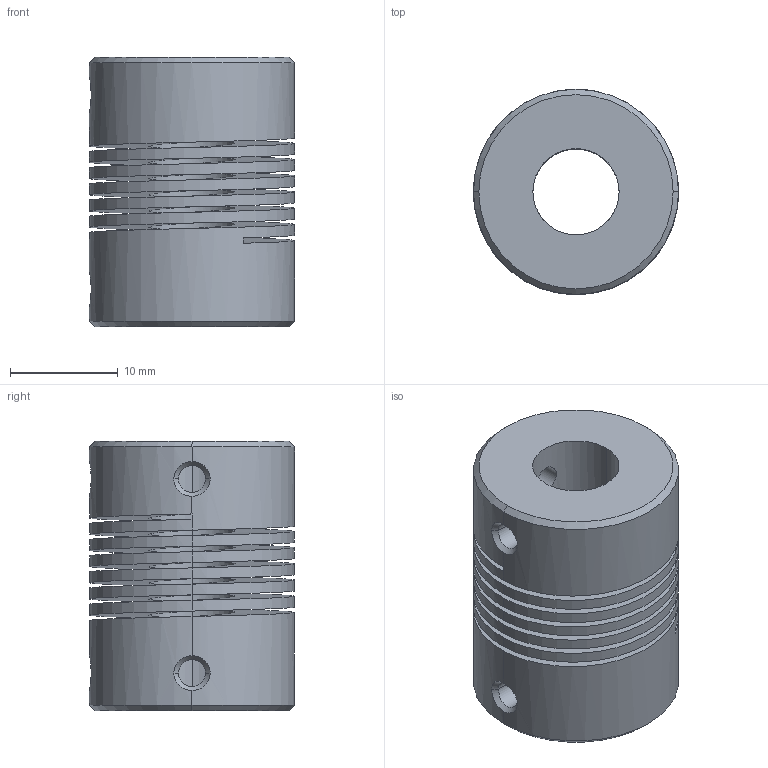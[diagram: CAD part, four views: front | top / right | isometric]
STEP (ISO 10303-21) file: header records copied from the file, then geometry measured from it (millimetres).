
FILE_DESCRIPTION (( 'STEP AP214' ), '1' );
FILE_NAME ('FlexCoupler_8_8.STEP', '2026-05-29T16:56:37', ( '' ), ( '' ), 'SwSTEP 2.0', 'SolidWorks 2022', '' );
FILE_SCHEMA (( 'AUTOMOTIVE_DESIGN' ));
Length unit declared in the file: millimetre
Products named in the file (1): FlexCoupler_8_8
Bounding box: 19 x 19 x 25 mm (x, y, z)
Volume: 4927.3 mm3; surface area: 5513.5 mm2
Topology: 1 solids, 1 shells, 56 faces, 168 edges, 108 vertices
Faces by surface type: cylinder 38, bspline 10, cone 4, plane 4
Entity records: 6989 total; most frequent: CARTESIAN_POINT 5710, ORIENTED_EDGE 336, DIRECTION 171, EDGE_CURVE 168, VERTEX_POINT 108, EDGE_LOOP 62, AXIS2_PLACEMENT_3D 59, FACE_OUTER_BOUND 56
